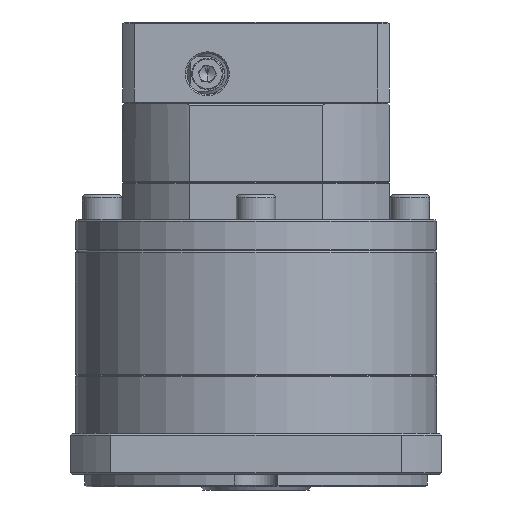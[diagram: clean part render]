
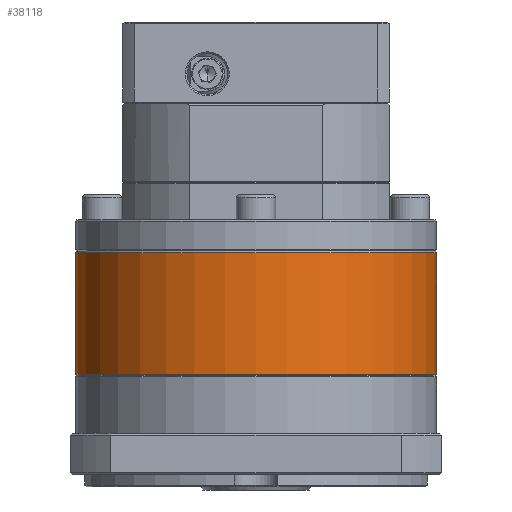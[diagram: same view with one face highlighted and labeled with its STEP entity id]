
A CAD part, front view. The second image highlights one B-rep face of the part: STEP entity #38118.
In plain terms, the highlighted cylindrical face has radius 57.5 mm (diameter 115 mm), a partial arc.
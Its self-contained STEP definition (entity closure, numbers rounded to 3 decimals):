
#1443 = ORIENTED_EDGE ( 'NONE', *, *, #92019, .T. ) ;
#14060 = VERTEX_POINT ( 'NONE', #87894 ) ;
#21171 = AXIS2_PLACEMENT_3D ( 'NONE', #28837, #105616, #85812 ) ;
#25057 = ORIENTED_EDGE ( 'NONE', *, *, #124051, .F. ) ;
#28837 = CARTESIAN_POINT ( 'NONE',  ( 22.184, 103.003, -103.727 ) ) ;
#29560 = LINE ( 'NONE', #108357, #61272 ) ;
#31063 = DIRECTION ( 'NONE',  ( 0., 0., -1. ) ) ;
#32371 = DIRECTION ( 'NONE',  ( 0., 0., -1. ) ) ;
#38118 = ADVANCED_FACE ( 'NONE', ( #120558 ), #106795, .T. ) ;
#39385 = AXIS2_PLACEMENT_3D ( 'NONE', #111786, #121486, #83071 ) ;
#40612 = CARTESIAN_POINT ( 'NONE',  ( -35.316, 103.003, -65.016 ) ) ;
#41324 = CIRCLE ( 'NONE', #21171, 57.5 ) ;
#43877 = CARTESIAN_POINT ( 'NONE',  ( 22.184, 103.003, -64.516 ) ) ;
#46147 = EDGE_CURVE ( 'NONE', #120543, #14060, #41324, .T. ) ;
#49642 = VERTEX_POINT ( 'NONE', #105191 ) ;
#58911 = VECTOR ( 'NONE', #31063, 1000. ) ;
#61272 = VECTOR ( 'NONE', #32371, 1000. ) ;
#61339 = AXIS2_PLACEMENT_3D ( 'NONE', #43877, #110122, #110947 ) ;
#61921 = EDGE_CURVE ( 'NONE', #121418, #120543, #63420, .T. ) ;
#63420 = LINE ( 'NONE', #108311, #58911 ) ;
#65802 = CARTESIAN_POINT ( 'NONE',  ( -35.316, 103.003, -103.727 ) ) ;
#81443 = CIRCLE ( 'NONE', #39385, 57.5 ) ;
#83071 = DIRECTION ( 'NONE',  ( -1., 0., 0. ) ) ;
#85812 = DIRECTION ( 'NONE',  ( -1., 0., 0. ) ) ;
#87894 = CARTESIAN_POINT ( 'NONE',  ( 79.684, 103.003, -103.727 ) ) ;
#92019 = EDGE_CURVE ( 'NONE', #49642, #121418, #81443, .T. ) ;
#95708 = ORIENTED_EDGE ( 'NONE', *, *, #61921, .T. ) ;
#105191 = CARTESIAN_POINT ( 'NONE',  ( 79.684, 103.003, -65.016 ) ) ;
#105616 = DIRECTION ( 'NONE',  ( 0., 0., 1. ) ) ;
#106795 = CYLINDRICAL_SURFACE ( 'NONE', #61339, 57.5 ) ;
#108311 = CARTESIAN_POINT ( 'NONE',  ( -35.316, 103.003, -64.516 ) ) ;
#108357 = CARTESIAN_POINT ( 'NONE',  ( 79.684, 103.003, -64.516 ) ) ;
#110122 = DIRECTION ( 'NONE',  ( 0., 0., -1. ) ) ;
#110947 = DIRECTION ( 'NONE',  ( -1., 0., 0. ) ) ;
#111786 = CARTESIAN_POINT ( 'NONE',  ( 22.184, 103.003, -65.016 ) ) ;
#120543 = VERTEX_POINT ( 'NONE', #65802 ) ;
#120558 = FACE_OUTER_BOUND ( 'NONE', #123534, .T. ) ;
#121418 = VERTEX_POINT ( 'NONE', #40612 ) ;
#121486 = DIRECTION ( 'NONE',  ( 0., 0., -1. ) ) ;
#123534 = EDGE_LOOP ( 'NONE', ( #25057, #1443, #95708, #124460 ) ) ;
#124051 = EDGE_CURVE ( 'NONE', #49642, #14060, #29560, .T. ) ;
#124460 = ORIENTED_EDGE ( 'NONE', *, *, #46147, .T. ) ;
